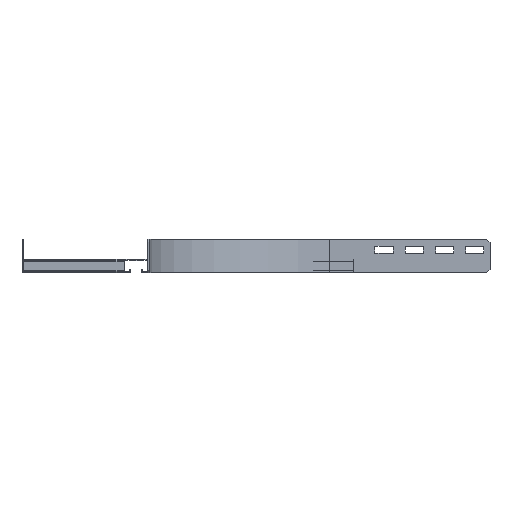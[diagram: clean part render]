
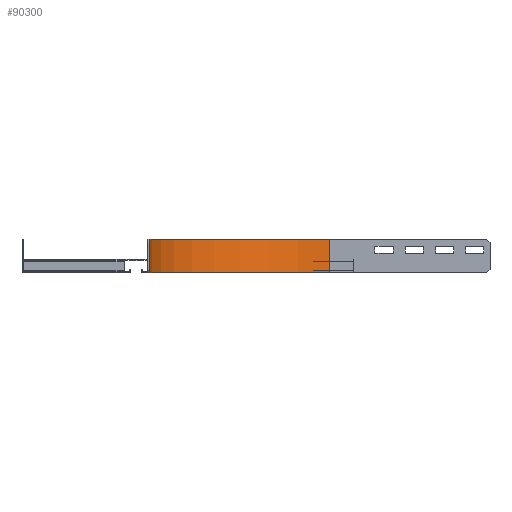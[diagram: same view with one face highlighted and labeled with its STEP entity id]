
A CAD part, left-side view. The second image highlights one B-rep face of the part: STEP entity #90300.
In plain terms, the highlighted cylindrical face has radius 297 mm (diameter 594 mm), a partial arc.
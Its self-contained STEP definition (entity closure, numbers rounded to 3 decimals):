
#78110=CARTESIAN_POINT('',(297.,-300.,-90.));
#78120=VERTEX_POINT('',#78110);
#78150=CARTESIAN_POINT('',(0.,-300.,-90.));
#78160=DIRECTION('',(0.,0.,-1.));
#78170=DIRECTION('',(-1.,0.,0.));
#78180=AXIS2_PLACEMENT_3D('',#78150,#78160,#78170);
#78190=CIRCLE('',#78180,297.);
#78200=CARTESIAN_POINT('',(0.,-3.,-90.));
#78210=VERTEX_POINT('',#78200);
#78220=EDGE_CURVE('',#78210,#78120,#78190,.T.);
#80630=CARTESIAN_POINT('',(0.,-3.,-145.));
#80640=VERTEX_POINT('',#80630);
#80670=CARTESIAN_POINT('',(0.,-300.,-145.));
#80680=DIRECTION('',(0.,0.,-1.));
#80690=DIRECTION('',(-1.,0.,0.));
#80700=AXIS2_PLACEMENT_3D('',#80670,#80680,#80690);
#80710=CIRCLE('',#80700,297.);
#80720=CARTESIAN_POINT('',(297.,-300.,-145.));
#80730=VERTEX_POINT('',#80720);
#80740=EDGE_CURVE('',#80640,#80730,#80710,.T.);
#84810=CARTESIAN_POINT('',(297.,-300.,0.));
#84820=DIRECTION('',(0.,0.,-1.));
#84830=VECTOR('',#84820,1.);
#84840=LINE('',#84810,#84830);
#84850=EDGE_CURVE('',#78120,#80730,#84840,.T.);
#86400=CARTESIAN_POINT('',(0.,-3.,0.));
#86410=DIRECTION('',(0.,0.,-1.));
#86420=VECTOR('',#86410,1.);
#86430=LINE('',#86400,#86420);
#86440=EDGE_CURVE('',#78210,#80640,#86430,.T.);
#90190=CARTESIAN_POINT('',(0.,-300.,0.));
#90200=DIRECTION('',(0.,0.,-1.));
#90210=DIRECTION('',(-1.,0.,0.));
#90220=AXIS2_PLACEMENT_3D('',#90190,#90200,#90210);
#90230=CYLINDRICAL_SURFACE('',#90220,297.);
#90240=ORIENTED_EDGE('',*,*,#78220,.F.);
#90250=ORIENTED_EDGE('',*,*,#84850,.F.);
#90260=ORIENTED_EDGE('',*,*,#80740,.T.);
#90270=ORIENTED_EDGE('',*,*,#86440,.T.);
#90280=EDGE_LOOP('',(#90270,#90260,#90250,#90240));
#90290=FACE_OUTER_BOUND('',#90280,.T.);
#90300=ADVANCED_FACE('',(#90290),#90230,.F.);
